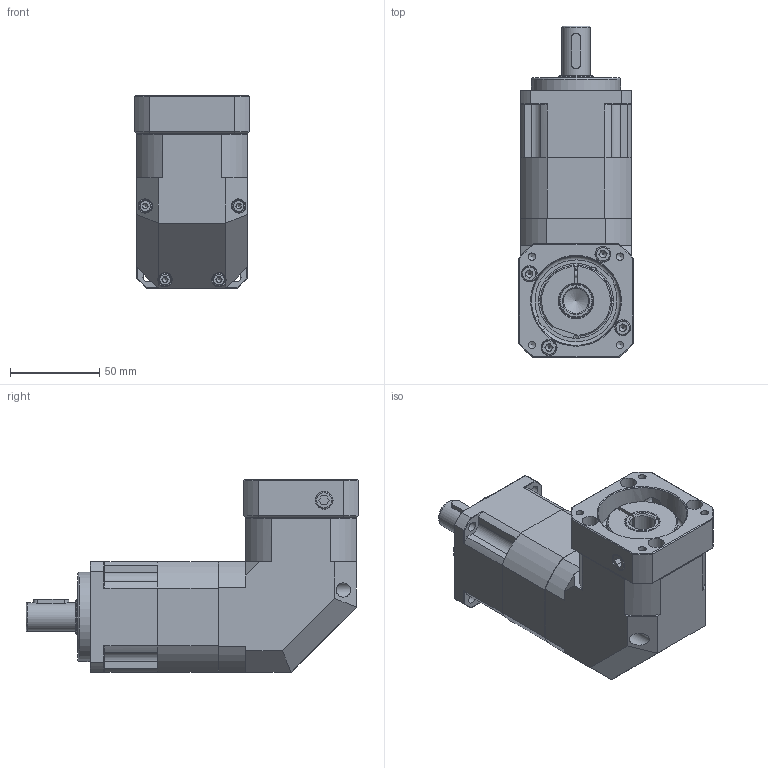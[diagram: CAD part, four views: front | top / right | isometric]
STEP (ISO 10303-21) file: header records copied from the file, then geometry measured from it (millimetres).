
FILE_DESCRIPTION((''),'2;1');
FILE_NAME('C:\Work\감속기 카다로그 도면\ATG Reducer(홈페이지)\PBL-H\STP\PBL62-H-2.stp','2014-05-27T14:49:35',('young'),(''),'Autodesk Inventor 2012','Autodesk Inventor 2012','');
FILE_SCHEMA(('AUTOMOTIVE_DESIGN { 1 0 10303 214 1 1 1 1 }'));
Length unit declared in the file: millimetre
Products named in the file (1): PBL62-H-2
Bounding box: 64 x 186.3 x 108 mm (x, y, z)
Volume: 481347.6 mm3; surface area: 124859.5 mm2
Topology: 22 solids, 22 shells, 656 faces, 1619 edges, 1054 vertices
Faces by surface type: plane 369, cylinder 147, cone 100, torus 20, bspline 20
Full cylindrical faces by diameter (mm): 3 x4, 3.3 x4, 4 x5, 4.2 x10, 4.5 x8, 5 x9, 5.5 x9, 7 x5, 8 x4, 8.5 x4, 9 x4, 9.5 x2, 11 x1, 14.2 x1, 16 x1, 19.3 x1, 19.8 x2, 20 x2, 30 x2, 34 x1, 35 x6, 40 x1, 42 x1, 48 x3, 50 x4, 52 x1
Entity records: 24278 total; most frequent: CARTESIAN_POINT 9673, DIRECTION 2960, ORIENTED_EDGE 2790, EDGE_CURVE 1395, AXIS2_PLACEMENT_3D 1139, VERTEX_POINT 1002, EDGE_LOOP 927, VECTOR 682
